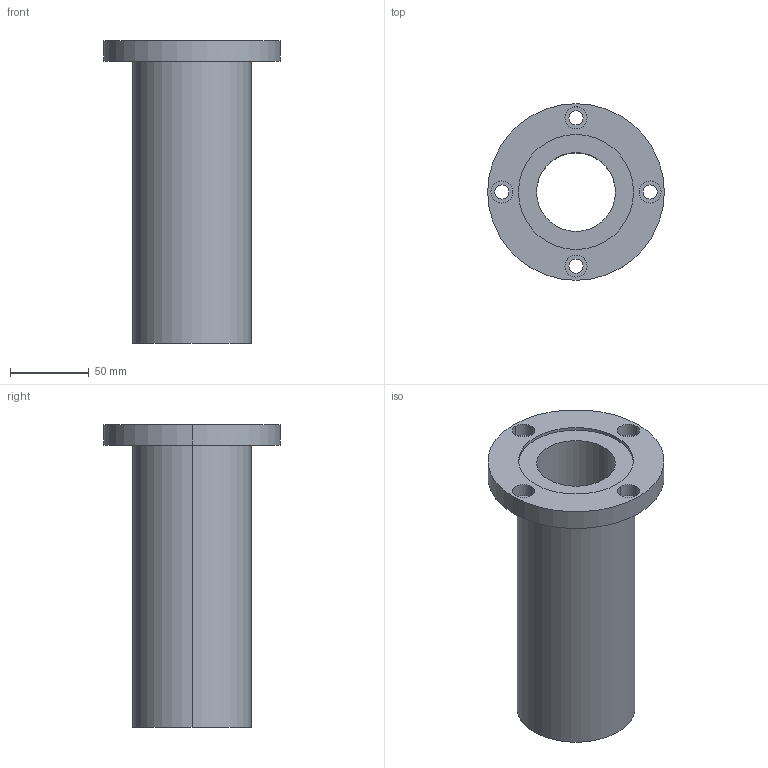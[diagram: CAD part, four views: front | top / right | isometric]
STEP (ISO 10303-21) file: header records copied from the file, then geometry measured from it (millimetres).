
FILE_DESCRIPTION((''),'2;1');
FILE_NAME('C:\Documents and Settings\ｿﾀﾀ蠑ｷ1\ｹﾙﾅﾁ ﾈｭｸ饅\ｺﾎﾇｰﾆﾄﾀﾏ\ﾁｦﾇｰ\LMEF__LUU\LMEF50LUU.stp','2005-06-15T10:55:01',('ｿﾀﾀ蠑ｷ1'),(''),'Autodesk Inventor 9','Autodesk Inventor 9','');
FILE_SCHEMA(('AUTOMOTIVE_DESIGN { 1 0 10303 214 1 1 1 1 }'));
Length unit declared in the file: millimetre
Products named in the file (1): LMEF__(L)
Bounding box: 112 x 112 x 192 mm (x, y, z)
Volume: 526581 mm3; surface area: 94476.8 mm2
Topology: 1 solids, 1 shells, 35 faces, 78 edges, 52 vertices
Faces by surface type: bspline 20, cylinder 10, plane 5
Entity records: 1255 total; most frequent: CARTESIAN_POINT 450, DIRECTION 162, ORIENTED_EDGE 156, EDGE_CURVE 78, AXIS2_PLACEMENT_3D 68, VERTEX_POINT 52, CIRCLE 52, EDGE_LOOP 52
